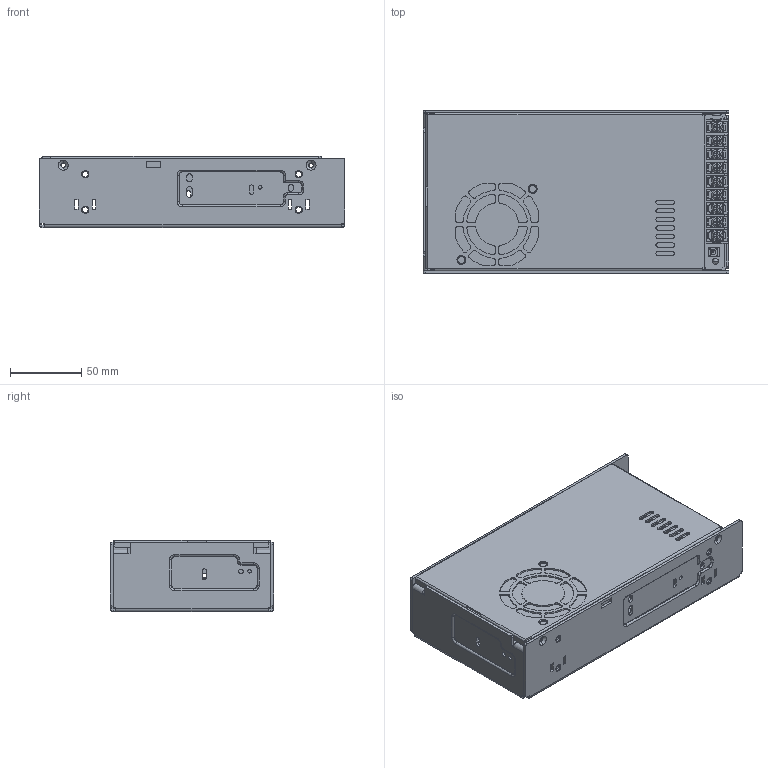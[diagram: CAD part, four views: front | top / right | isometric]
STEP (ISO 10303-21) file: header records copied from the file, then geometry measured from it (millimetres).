
FILE_DESCRIPTION((''),'2;1');
FILE_NAME('PMT-12V350W1AR_3D_ASM','2020-12-11T',('EUNICE.HUANG'),(''),'PRO/ENGINEER BY PARAMETRIC TECHNOLOGY CORPORATION, 2015240','PRO/ENGINEER BY PARAMETRIC TECHNOLOGY CORPORATION, 2015240','');
FILE_SCHEMA(('AUTOMOTIVE_DESIGN { 1 0 10303 214 1 1 1 1 }'));
Length unit declared in the file: millimetre
Products named in the file (28): MANIFOLD_SOLID_BREP_12608; MANIFOLD_SOLID_BREP_12763; CHASSIS_AF0_2_ASM; CHASSIS-STANDOFF_1; CHASSIS-STANDOFF-1_1; CHASSIS_ASM_2_ASM; PWB_2_25_2013_2; VR1__1; LEG1__1; VR_LEG__ASM_1_ASM; MANIFOLD_SOLID_BREP_17698; MANIFOLD_SOLID_BREP_17786; LED_HOLDER_1_ASM; COVER-01_2; BOX1_1; PRT0001_1; PRT0002_1; PRT0003_1; PRT0004_1; PRT0005_1; PRT0006_1; PRT0007_1; PRT0008_1; PRT0009_1; PRT0010_1; T44-ES1109A302_ASM_1_ASM; CASE_ASM_2_ASM; PMT-12V350W1AR_3D_ASM
Assembly tree (34 placements, depth 5):
  PMT-12V350W1AR_3D_ASM
    CASE_ASM_2_ASM
      CHASSIS_ASM_2_ASM
        CHASSIS_AF0_2_ASM
          MANIFOLD_SOLID_BREP_12608
          MANIFOLD_SOLID_BREP_12763
        CHASSIS-STANDOFF_1  x2
        CHASSIS-STANDOFF-1_1  x3
      PWB_2_25_2013_2
      VR_LEG__ASM_1_ASM
        VR1__1
        LEG1__1  x3
      LED_HOLDER_1_ASM
        MANIFOLD_SOLID_BREP_17698
        MANIFOLD_SOLID_BREP_17786
      COVER-01_2
      BOX1_1  x3
      T44-ES1109A302_ASM_1_ASM
        PRT0001_1
        PRT0002_1
        PRT0003_1
        PRT0004_1
        PRT0005_1
        PRT0006_1
        PRT0007_1
        PRT0008_1
        PRT0009_1
        PRT0010_1
Bounding box: 215 x 115 x 50 mm (x, y, z)
Volume: 178291.9 mm3; surface area: 214037.4 mm2
Topology: 28 solids, 28 shells, 1965 faces, 5372 edges, 3456 vertices
Faces by surface type: plane 1211, cylinder 523, cone 92, torus 64, bspline 37, extrusion 36, sphere 2
Entity records: 61636 total; most frequent: CARTESIAN_POINT 13637, ORIENTED_EDGE 9912, DIRECTION 9565, EDGE_CURVE 4956, VECTOR 3305, LINE 3269, VERTEX_POINT 3228, AXIS2_PLACEMENT_3D 3130
